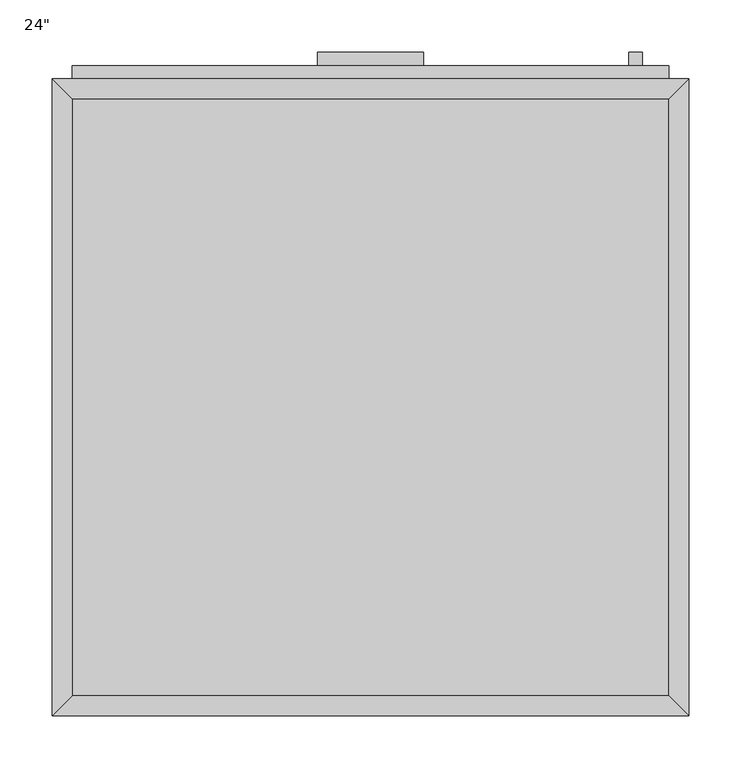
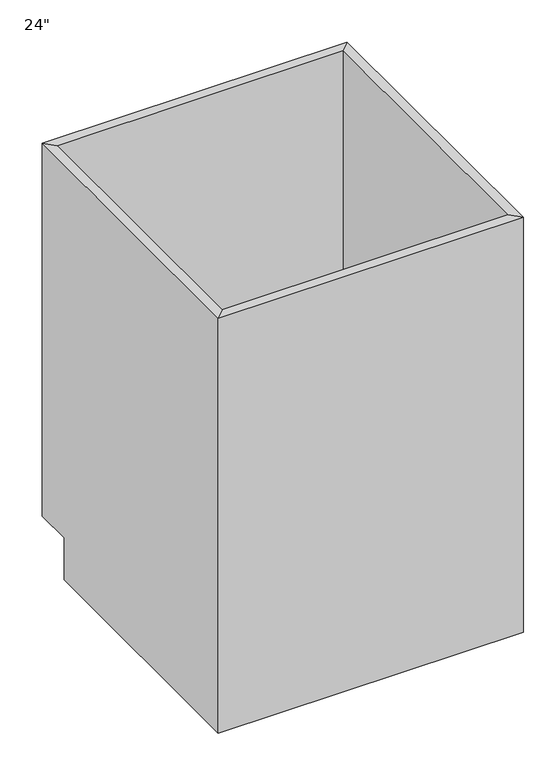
"""IFC4 building model written with IfcOpenShell, lengths in millimetres: furniture geometry."""

from ifc_helpers import new_model, si_unit, frame, origin, place, context, project, spatial, polyline, outline, extrude, faceted_brep, source, transform, mapped, element, save


def furniture_94ff1b7c(model_context):
    return source(origin(), model_context, "Body", "SolidModel", [
        faceted_brep([(304.4877049, 590.55, 876.3), (-267.0122951, 590.55, 876.3), (-267.0122951, 590.55, 88.9), (304.4877049, 590.55, 88.9), (323.5377049, 609.6, 876.3), (-286.0622951, 609.6, 876.3), (323.5377049, 609.6, 88.9), (-286.0622951, 609.6, 88.9), (-267.0122951, 19.05, 876.3), (-267.0122951, 19.05, 88.9), (-267.0122951, 533.4, 88.9), (-286.0622951, 0.0, 876.3), (-286.0622951, 533.4, 88.9), (-286.0622951, 533.4, 0.0), (-286.0622951, 0.0, 0.0), (304.4877049, 19.05, 876.3), (304.4877049, 19.05, 88.9), (323.5377049, 0.0, 876.3), (323.5377049, 0.0, 0.0), (304.4877049, 533.4, 88.9), (323.5377049, 533.4, 0.0), (323.5377049, 533.4, 88.9)], [[[0, 1, 2, 3]], [[0, 4, 5, 1]], [[4, 6, 7, 5]], [[2, 7, 6, 3]], [[1, 8, 9, 10, 2]], [[5, 11, 8, 1]], [[7, 12, 13, 14, 11, 5]], [[2, 10, 12, 7]], [[8, 15, 16, 9]], [[11, 17, 15, 8]], [[14, 18, 17, 11]], [[3, 19, 16, 15, 0]], [[0, 15, 17, 4]], [[4, 17, 18, 20, 21, 6]], [[6, 21, 19, 3]], [[10, 9, 16, 19]], [[18, 14, 13, 20]], [[13, 12, 10, 19, 21, 20]]]),
        extrude(outline(polyline([(279.0877049, 635.0), (279.0877049, 622.3), (266.3877049, 622.3), (266.3877049, 635.0), (279.0877049, 635.0)])), frame((0.0, 0.0, 596.9), z_axis=(0.0, 0.0, 1.0), x_axis=(1.0, 0.0, 0.0)), (0.0, 0.0, 1.0), 101.6),
        extrude(outline(polyline([(69.5377049, 635.0), (69.5377049, 622.3), (-32.0622951, 622.3), (-32.0622951, 635.0), (69.5377049, 635.0)])), frame((0.0, 0.0, 819.15), z_axis=(0.0, 0.0, 1.0), x_axis=(1.0, 0.0, 0.0)), (0.0, 0.0, 1.0), 12.7),
        extrude(outline(polyline([(304.4877049, 622.3), (304.4877049, 609.6), (-267.0122951, 609.6), (-267.0122951, 622.3), (304.4877049, 622.3)])), frame((0.0, 0.0, 107.95), z_axis=(0.0, 0.0, 1.0), x_axis=(1.0, 0.0, 0.0)), (0.0, 0.0, 1.0), 628.65),
        extrude(outline(polyline([(304.4877049, 622.3), (304.4877049, 609.6), (-267.0122951, 609.6), (-267.0122951, 622.3), (304.4877049, 622.3)])), frame((0.0, 0.0, 755.65), z_axis=(0.0, 0.0, 1.0), x_axis=(1.0, 0.0, 0.0)), (0.0, 0.0, 1.0), 101.6),
        extrude(outline(polyline([(304.4877049, 19.05), (-267.0122951, 19.05), (-267.0122951, 590.55), (304.4877049, 590.55), (304.4877049, 19.05)])), frame((0.0, 0.0, 88.9), z_axis=(0.0, 0.0, 1.0), x_axis=(1.0, 0.0, 0.0)), (0.0, 0.0, 1.0), 19.05),
    ])


if __name__ == "__main__":
    model = new_model("IFC4")
    model_context = context("Model", 3, world=origin())
    ifc_project = project(units=[si_unit("LENGTHUNIT", "METRE", prefix="MILLI")], contexts=[model_context])
    site = spatial("IfcSite", under=ifc_project)
    building = spatial("IfcBuilding", under=site)
    placement = place(None, origin())
    furniture_shape = furniture_94ff1b7c(model_context)
    element("IfcFurniture", 1, ObjectType="Base Cabinet-Single Door & Drawer : 24\"", at=placement, inside=building, context=model_context, shape_type="MappedRepresentation", body=[
        mapped(furniture_shape, transform((0.0, 0.0, 0.0), x_axis=(1.0, 0.0, 0.0), y_axis=(0.0, 1.0, 0.0), z_axis=(0.0, 0.0, 1.0))),
    ])
    save(model, "model.ifc")
